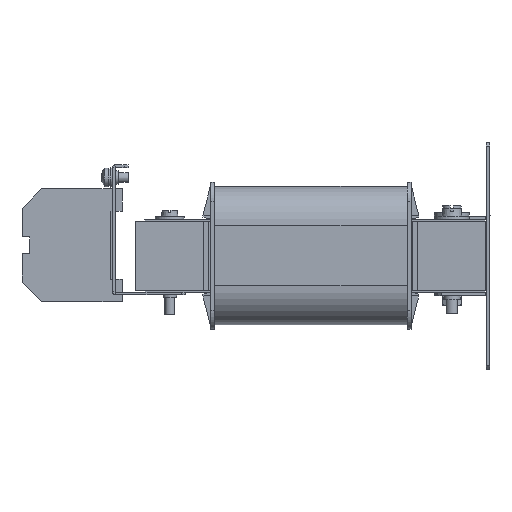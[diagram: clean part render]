
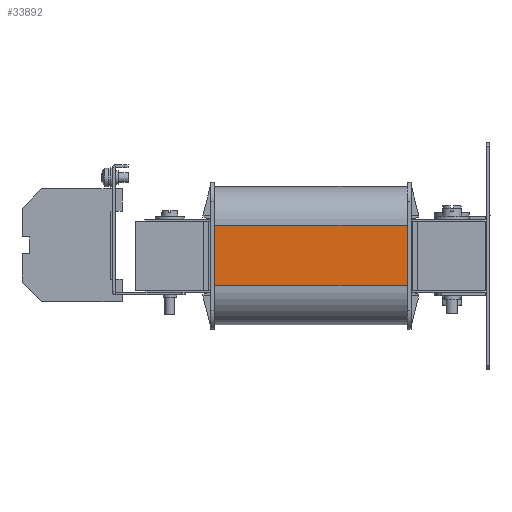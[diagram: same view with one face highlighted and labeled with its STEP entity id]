
A CAD part, left-side view. The second image highlights one B-rep face of the part: STEP entity #33892.
In plain terms, the highlighted planar face has unit normal (-1, 0, 0).
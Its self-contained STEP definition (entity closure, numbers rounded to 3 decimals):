
#2817 = CARTESIAN_POINT ( 'NONE',  ( -32.85, 99.2, 15.55 ) ) ;
#2939 = PLANE ( 'NONE',  #39299 ) ;
#3533 = VECTOR ( 'NONE', #47966, 1000. ) ;
#4157 = CARTESIAN_POINT ( 'NONE',  ( -32.85, 99.2, 35.55 ) ) ;
#6415 = DIRECTION ( 'NONE',  ( 0., 1., 0. ) ) ;
#6628 = VERTEX_POINT ( 'NONE', #37173 ) ;
#6718 = DIRECTION ( 'NONE',  ( 1., 0., 0. ) ) ;
#7667 = DIRECTION ( 'NONE',  ( 0., 0., 1. ) ) ;
#12676 = ORIENTED_EDGE ( 'NONE', *, *, #45741, .T. ) ;
#13562 = LINE ( 'NONE', #18043, #3533 ) ;
#13689 = CARTESIAN_POINT ( 'NONE',  ( -32.85, 99.2, -15.55 ) ) ;
#14410 = VERTEX_POINT ( 'NONE', #13689 ) ;
#14764 = ORIENTED_EDGE ( 'NONE', *, *, #41310, .T. ) ;
#17791 = VECTOR ( 'NONE', #6415, 1000. ) ;
#18043 = CARTESIAN_POINT ( 'NONE',  ( -32.85, 99.2, -15.55 ) ) ;
#21441 = EDGE_LOOP ( 'NONE', ( #47153, #14764, #12676, #35816 ) ) ;
#23818 = VERTEX_POINT ( 'NONE', #29749 ) ;
#24527 = VECTOR ( 'NONE', #7667, 1000. ) ;
#29749 = CARTESIAN_POINT ( 'NONE',  ( -32.85, 0., 15.55 ) ) ;
#30517 = DIRECTION ( 'NONE',  ( 0., 0., 1. ) ) ;
#32427 = VERTEX_POINT ( 'NONE', #34665 ) ;
#33033 = DIRECTION ( 'NONE',  ( 0., 0., -1. ) ) ;
#33892 = ADVANCED_FACE ( 'NONE', ( #35771 ), #2939, .F. ) ;
#34665 = CARTESIAN_POINT ( 'NONE',  ( -32.85, 99.2, 15.55 ) ) ;
#35771 = FACE_OUTER_BOUND ( 'NONE', #21441, .T. ) ;
#35816 = ORIENTED_EDGE ( 'NONE', *, *, #36834, .T. ) ;
#36472 = VECTOR ( 'NONE', #30517, 1000. ) ;
#36834 = EDGE_CURVE ( 'NONE', #23818, #32427, #46488, .T. ) ;
#37173 = CARTESIAN_POINT ( 'NONE',  ( -32.85, 0., -15.55 ) ) ;
#37414 = EDGE_CURVE ( 'NONE', #14410, #32427, #45218, .T. ) ;
#39299 = AXIS2_PLACEMENT_3D ( 'NONE', #47871, #6718, #33033 ) ;
#41310 = EDGE_CURVE ( 'NONE', #14410, #6628, #13562, .T. ) ;
#44402 = LINE ( 'NONE', #45084, #24527 ) ;
#45084 = CARTESIAN_POINT ( 'NONE',  ( -32.85, 0., 35.55 ) ) ;
#45218 = LINE ( 'NONE', #4157, #36472 ) ;
#45741 = EDGE_CURVE ( 'NONE', #6628, #23818, #44402, .T. ) ;
#46488 = LINE ( 'NONE', #2817, #17791 ) ;
#47153 = ORIENTED_EDGE ( 'NONE', *, *, #37414, .F. ) ;
#47871 = CARTESIAN_POINT ( 'NONE',  ( -32.85, 99.2, 35.55 ) ) ;
#47966 = DIRECTION ( 'NONE',  ( 0., -1., 0. ) ) ;
